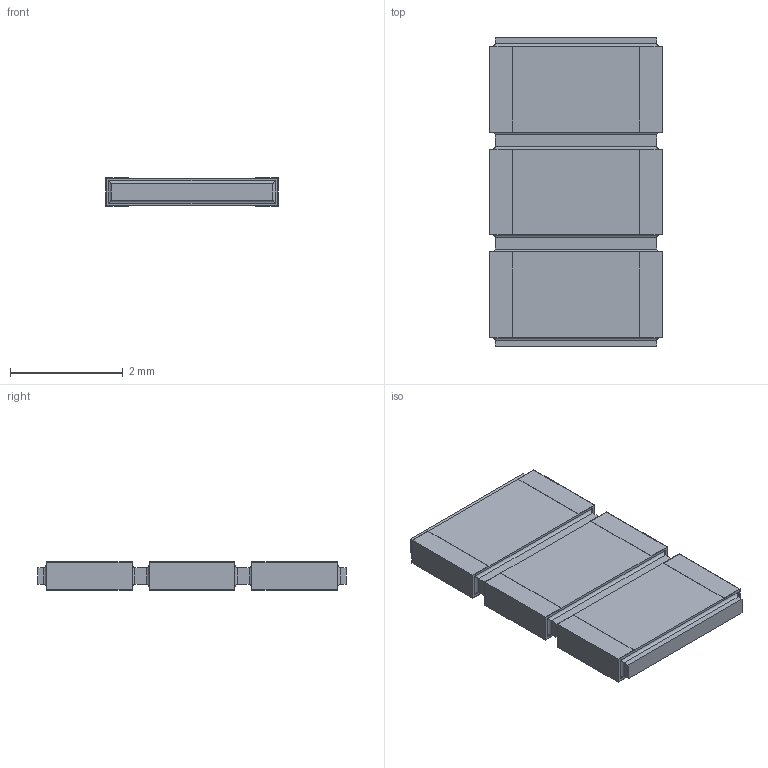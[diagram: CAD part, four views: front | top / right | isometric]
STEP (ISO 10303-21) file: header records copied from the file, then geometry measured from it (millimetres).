
FILE_DESCRIPTION(/* description */ (''),/* implementation_level */ '2;1');
FILE_NAME(/* name */ 'S:\DOCUMENT\AUTOCAD\3D_Modèles\10_3D-pour-VISHAY-COM\PRA\PRA182\PRA182-I2_à_I8\10_IGES\PRA182I3_B-or-N-or-G.stp',/* time_stamp */ '2017-12-18T15:17:57+01:00',/* author */ ('dparmentier'),/* organization */ ('unknown'),/* preprocessor_version */ 'ST-DEVELOPER v17',/* originating_system */ 'Autodesk Inventor 2018',/* authorisation */ '');
FILE_SCHEMA (('AUTOMOTIVE_DESIGN { 1 0 10303 214 3 1 1 }'));
Length unit declared in the file: millimetre
Products named in the file (1): PRA182I3_B-or-N-or-G
Bounding box: 3.06 x 5.47 x 0.5 mm (x, y, z)
Volume: 7.7 mm3; surface area: 66.6 mm2
Topology: 7 solids, 7 shells, 120 faces, 276 edges, 176 vertices
Faces by surface type: plane 96, cylinder 24
Entity records: 3359 total; most frequent: CARTESIAN_POINT 573, ORIENTED_EDGE 552, DIRECTION 542, EDGE_CURVE 276, LINE 252, VECTOR 252, VERTEX_POINT 176, AXIS2_PLACEMENT_3D 145
